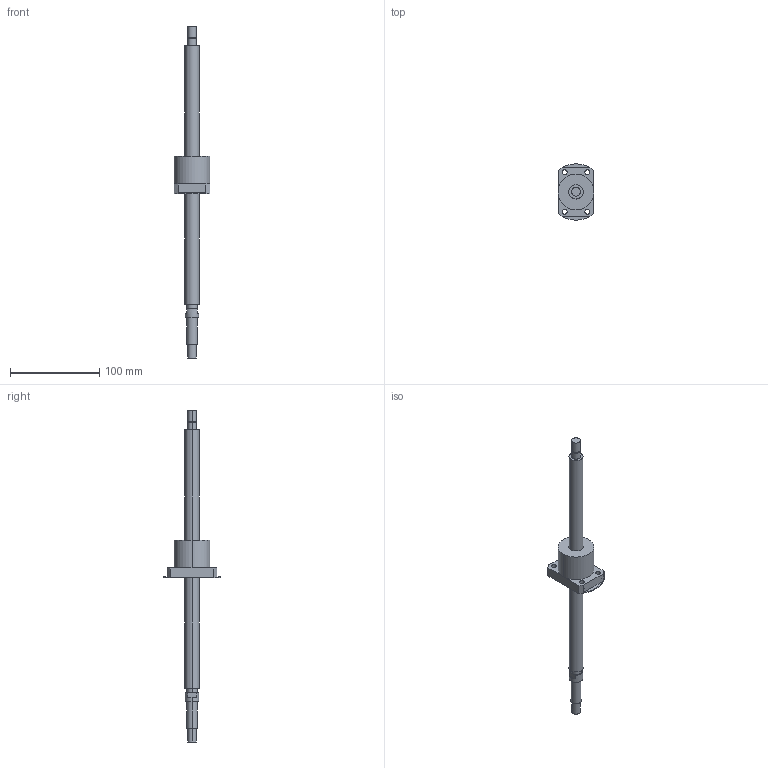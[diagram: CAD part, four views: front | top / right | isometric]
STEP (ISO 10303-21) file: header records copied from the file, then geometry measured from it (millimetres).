
FILE_DESCRIPTION((''),'2;1');
FILE_NAME('R16-5B1-FSW-289-371','2008-03-28T',('mahdi'),(''),'PRO/ENGINEER BY PARAMETRIC TECHNOLOGY CORPORATION, 2005070','PRO/ENGINEER BY PARAMETRIC TECHNOLOGY CORPORATION, 2005070','');
FILE_SCHEMA(('CONFIG_CONTROL_DESIGN'));
Length unit declared in the file: millimetre
Products named in the file (1): R16-5B1-FSW-289-371
Bounding box: 40 x 63 x 371 mm (x, y, z)
Volume: 119132.3 mm3; surface area: 26916.5 mm2
Topology: 1 solids, 1 shells, 66 faces, 148 edges, 96 vertices
Faces by surface type: cylinder 38, plane 28
Entity records: 1926 total; most frequent: DIRECTION 364, CARTESIAN_POINT 310, ORIENTED_EDGE 296, AXIS2_PLACEMENT_3D 150, EDGE_CURVE 148, VERTEX_POINT 96, EDGE_LOOP 86, CIRCLE 84
